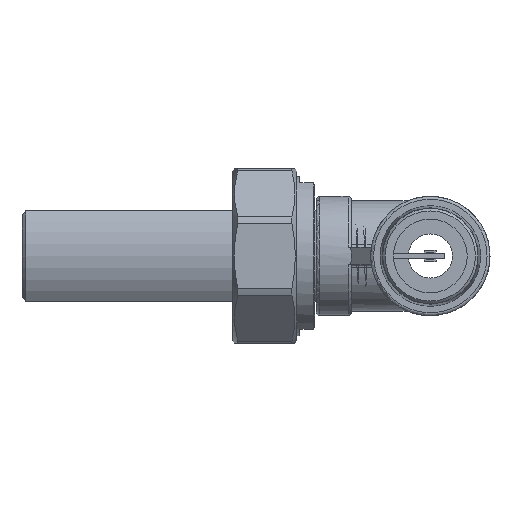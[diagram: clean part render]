
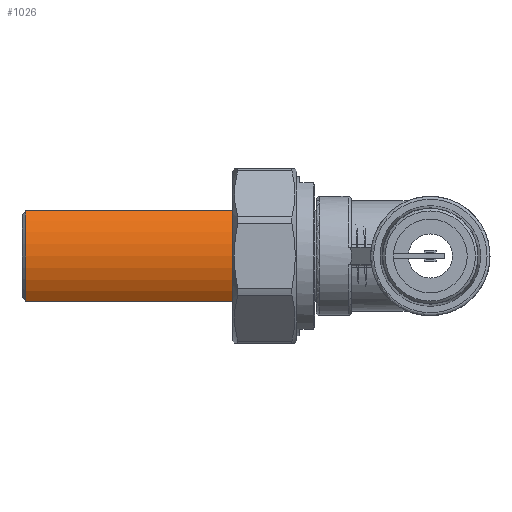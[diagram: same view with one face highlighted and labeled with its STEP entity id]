
A CAD part, left-side view. The second image highlights one B-rep face of the part: STEP entity #1026.
In plain terms, the highlighted cylindrical face has radius 12.5 mm (diameter 25 mm), a partial arc.
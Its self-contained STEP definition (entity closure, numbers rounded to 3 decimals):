
#361=LINE('',#10665,#583);
#362=LINE('',#10669,#584);
#583=VECTOR('',#4897,1.);
#584=VECTOR('',#4900,1.);
#654=CYLINDRICAL_SURFACE('',#4025,12.5);
#814=FACE_OUTER_BOUND('',#1638,.T.);
#1026=ADVANCED_FACE('',(#814),#654,.T.);
#1638=EDGE_LOOP('',(#2499,#2500,#2501,#2502));
#2499=ORIENTED_EDGE('',*,*,#3460,.T.);
#2500=ORIENTED_EDGE('',*,*,#3461,.F.);
#2501=ORIENTED_EDGE('',*,*,#3462,.F.);
#2502=ORIENTED_EDGE('',*,*,#3463,.F.);
#2986=VERTEX_POINT('',#10663);
#2987=VERTEX_POINT('',#10664);
#2988=VERTEX_POINT('',#10666);
#2989=VERTEX_POINT('',#10668);
#3460=EDGE_CURVE('',#2986,#2987,#3676,.T.);
#3461=EDGE_CURVE('',#2988,#2987,#361,.T.);
#3462=EDGE_CURVE('',#2989,#2988,#3677,.T.);
#3463=EDGE_CURVE('',#2986,#2989,#362,.T.);
#3676=CIRCLE('',#4023,12.5);
#3677=CIRCLE('',#4024,12.5);
#4023=AXIS2_PLACEMENT_3D('',#10662,#4895,#4896);
#4024=AXIS2_PLACEMENT_3D('',#10667,#4898,#4899);
#4025=AXIS2_PLACEMENT_3D('',#10670,#4901,#4902);
#4895=DIRECTION('',(0.,-1.,0.));
#4896=DIRECTION('',(-0.788,0.,0.616));
#4897=DIRECTION('',(0.,1.,0.));
#4898=DIRECTION('',(0.,-1.,0.));
#4899=DIRECTION('',(-0.788,0.,0.616));
#4900=DIRECTION('',(0.,-1.,0.));
#4901=DIRECTION('',(0.,1.,0.));
#4902=DIRECTION('',(-0.788,0.,-0.616));
#10662=CARTESIAN_POINT('',(0.,69.2,0.));
#10663=CARTESIAN_POINT('',(-9.847,69.2,7.7));
#10664=CARTESIAN_POINT('',(-9.847,69.2,-7.7));
#10665=CARTESIAN_POINT('',(-9.847,33.8,-7.7));
#10666=CARTESIAN_POINT('',(-9.847,33.8,-7.7));
#10667=CARTESIAN_POINT('',(0.,33.8,0.));
#10668=CARTESIAN_POINT('',(-9.847,33.8,7.7));
#10669=CARTESIAN_POINT('',(-9.847,69.2,7.7));
#10670=CARTESIAN_POINT('',(0.,33.8,0.));
